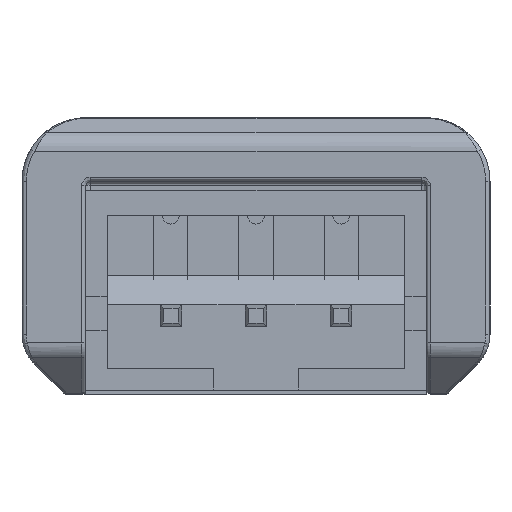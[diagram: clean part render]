
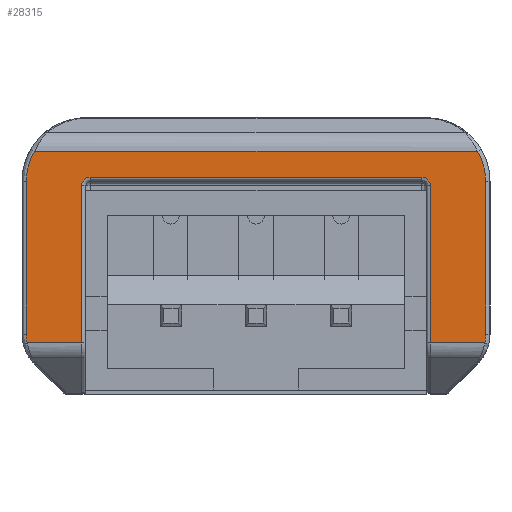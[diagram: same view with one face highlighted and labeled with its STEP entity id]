
A CAD part, left-side view. The second image highlights one B-rep face of the part: STEP entity #28315.
In plain terms, the highlighted planar face has unit normal (-1, 0, 0).
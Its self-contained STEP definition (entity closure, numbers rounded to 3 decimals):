
#2024=PLANE('',#31289);
#3296=FACE_OUTER_BOUND('',#5107,.T.);
#5107=EDGE_LOOP('',(#23622,#23623,#23624,#23625,#23626,#23627,#23628,#23629,
#23630,#23631,#23632,#23633,#23634,#23635));
#7168=LINE('',#56379,#9091);
#7170=LINE('',#56391,#9093);
#7172=LINE('',#56403,#9095);
#7178=LINE('',#56515,#9101);
#7182=LINE('',#56668,#9105);
#7200=LINE('',#56811,#9123);
#7201=LINE('',#56813,#9124);
#7202=LINE('',#56814,#9125);
#9091=VECTOR('',#38277,10.);
#9093=VECTOR('',#38291,10.);
#9095=VECTOR('',#38305,10.);
#9101=VECTOR('',#38361,10.);
#9105=VECTOR('',#38405,10.);
#9123=VECTOR('',#38483,10.);
#9124=VECTOR('',#38486,10.);
#9125=VECTOR('',#38487,10.);
#10563=CIRCLE('',#31205,0.2);
#10567=CIRCLE('',#31211,0.2);
#10583=CIRCLE('',#31236,0.9);
#10587=CIRCLE('',#31242,1.4);
#10595=CIRCLE('',#31256,1.4);
#10599=CIRCLE('',#31262,0.9);
#12871=VERTEX_POINT('',#56373);
#12872=VERTEX_POINT('',#56377);
#12873=VERTEX_POINT('',#56381);
#12875=VERTEX_POINT('',#56387);
#12877=VERTEX_POINT('',#56393);
#12879=VERTEX_POINT('',#56399);
#12892=VERTEX_POINT('',#56477);
#12894=VERTEX_POINT('',#56505);
#12896=VERTEX_POINT('',#56511);
#12898=VERTEX_POINT('',#56517);
#12908=VERTEX_POINT('',#56633);
#12910=VERTEX_POINT('',#56658);
#12912=VERTEX_POINT('',#56664);
#12914=VERTEX_POINT('',#56670);
#16495=EDGE_CURVE('',#12871,#12872,#7168,.T.);
#16498=EDGE_CURVE('',#12872,#12873,#10563,.T.);
#16501=EDGE_CURVE('',#12873,#12875,#7170,.T.);
#16504=EDGE_CURVE('',#12875,#12877,#10567,.T.);
#16507=EDGE_CURVE('',#12877,#12879,#7172,.T.);
#16530=EDGE_CURVE('',#12892,#12894,#10583,.T.);
#16533=EDGE_CURVE('',#12894,#12896,#7178,.T.);
#16536=EDGE_CURVE('',#12896,#12898,#10587,.T.);
#16554=EDGE_CURVE('',#12908,#12910,#10595,.T.);
#16557=EDGE_CURVE('',#12910,#12912,#7182,.T.);
#16560=EDGE_CURVE('',#12912,#12914,#10599,.T.);
#16592=EDGE_CURVE('',#12898,#12908,#7200,.T.);
#16593=EDGE_CURVE('',#12879,#12892,#7201,.T.);
#16594=EDGE_CURVE('',#12914,#12871,#7202,.T.);
#23622=ORIENTED_EDGE('',*,*,#16560,.F.);
#23623=ORIENTED_EDGE('',*,*,#16557,.F.);
#23624=ORIENTED_EDGE('',*,*,#16554,.F.);
#23625=ORIENTED_EDGE('',*,*,#16592,.F.);
#23626=ORIENTED_EDGE('',*,*,#16536,.F.);
#23627=ORIENTED_EDGE('',*,*,#16533,.F.);
#23628=ORIENTED_EDGE('',*,*,#16530,.F.);
#23629=ORIENTED_EDGE('',*,*,#16593,.F.);
#23630=ORIENTED_EDGE('',*,*,#16507,.F.);
#23631=ORIENTED_EDGE('',*,*,#16504,.F.);
#23632=ORIENTED_EDGE('',*,*,#16501,.F.);
#23633=ORIENTED_EDGE('',*,*,#16498,.F.);
#23634=ORIENTED_EDGE('',*,*,#16495,.F.);
#23635=ORIENTED_EDGE('',*,*,#16594,.F.);
#28315=ADVANCED_FACE('',(#3296),#2024,.F.);
#31205=AXIS2_PLACEMENT_3D('',#56385,#38284,#38285);
#31211=AXIS2_PLACEMENT_3D('',#56397,#38298,#38299);
#31236=AXIS2_PLACEMENT_3D('',#56509,#38354,#38355);
#31242=AXIS2_PLACEMENT_3D('',#56521,#38368,#38369);
#31256=AXIS2_PLACEMENT_3D('',#56662,#38398,#38399);
#31262=AXIS2_PLACEMENT_3D('',#56674,#38412,#38413);
#31289=AXIS2_PLACEMENT_3D('',#56812,#38484,#38485);
#38277=DIRECTION('',(0.,0.,1.));
#38284=DIRECTION('center_axis',(-1.,0.,0.));
#38285=DIRECTION('ref_axis',(0.,-0.707,0.707));
#38291=DIRECTION('',(0.,1.,0.));
#38298=DIRECTION('center_axis',(-1.,0.,0.));
#38299=DIRECTION('ref_axis',(0.,0.707,0.707));
#38305=DIRECTION('',(0.,0.,-1.));
#38354=DIRECTION('center_axis',(1.,0.,0.));
#38355=DIRECTION('ref_axis',(0.,0.995,-0.104));
#38361=DIRECTION('',(0.,0.,1.));
#38368=DIRECTION('center_axis',(1.,0.,0.));
#38369=DIRECTION('ref_axis',(0.,0.97,0.245));
#38398=DIRECTION('center_axis',(1.,0.,0.));
#38399=DIRECTION('ref_axis',(0.,-0.97,0.245));
#38405=DIRECTION('',(0.,0.,-1.));
#38412=DIRECTION('center_axis',(1.,0.,0.));
#38413=DIRECTION('ref_axis',(0.,-0.995,-0.104));
#38483=DIRECTION('',(0.,-1.,0.));
#38484=DIRECTION('center_axis',(1.,0.,0.));
#38485=DIRECTION('ref_axis',(0.,0.,-1.));
#38486=DIRECTION('',(0.,1.,0.));
#38487=DIRECTION('',(0.,1.,0.));
#56373=CARTESIAN_POINT('',(-100.,-4.1,1.207));
#56377=CARTESIAN_POINT('',(-100.,-4.1,4.9));
#56379=CARTESIAN_POINT('',(-100.,-4.1,3.316));
#56381=CARTESIAN_POINT('',(-100.,-3.9,5.1));
#56385=CARTESIAN_POINT('Origin',(-100.,-3.9,4.9));
#56387=CARTESIAN_POINT('',(-100.,3.9,5.1));
#56391=CARTESIAN_POINT('',(-100.,1.375,5.1));
#56393=CARTESIAN_POINT('',(-100.,4.1,4.9));
#56397=CARTESIAN_POINT('Origin',(-100.,3.9,4.9));
#56399=CARTESIAN_POINT('',(-100.,4.1,1.207));
#56403=CARTESIAN_POINT('',(-100.,4.1,3.316));
#56477=CARTESIAN_POINT('',(-100.,5.376,1.207));
#56505=CARTESIAN_POINT('',(-100.,5.4,1.414));
#56509=CARTESIAN_POINT('Origin',(-100.,4.5,1.414));
#56511=CARTESIAN_POINT('',(-100.,5.4,5.));
#56515=CARTESIAN_POINT('',(-100.,5.4,3.316));
#56517=CARTESIAN_POINT('',(-100.,5.206,5.711));
#56521=CARTESIAN_POINT('Origin',(-100.,4.,5.));
#56633=CARTESIAN_POINT('',(-100.,-5.206,5.711));
#56658=CARTESIAN_POINT('',(-100.,-5.4,5.));
#56662=CARTESIAN_POINT('Origin',(-100.,-4.,5.));
#56664=CARTESIAN_POINT('',(-100.,-5.4,1.414));
#56668=CARTESIAN_POINT('',(-100.,-5.4,3.316));
#56670=CARTESIAN_POINT('',(-100.,-5.376,1.207));
#56674=CARTESIAN_POINT('Origin',(-100.,-4.5,1.414));
#56811=CARTESIAN_POINT('',(-100.,1.375,5.711));
#56812=CARTESIAN_POINT('Origin',(-100.,2.75,3.25));
#56813=CARTESIAN_POINT('',(-100.,1.375,1.207));
#56814=CARTESIAN_POINT('',(-100.,1.375,1.207));
